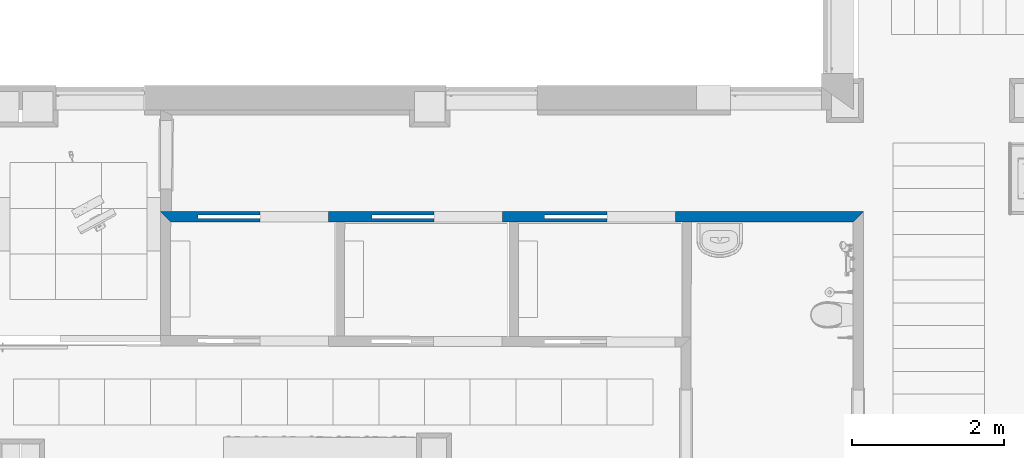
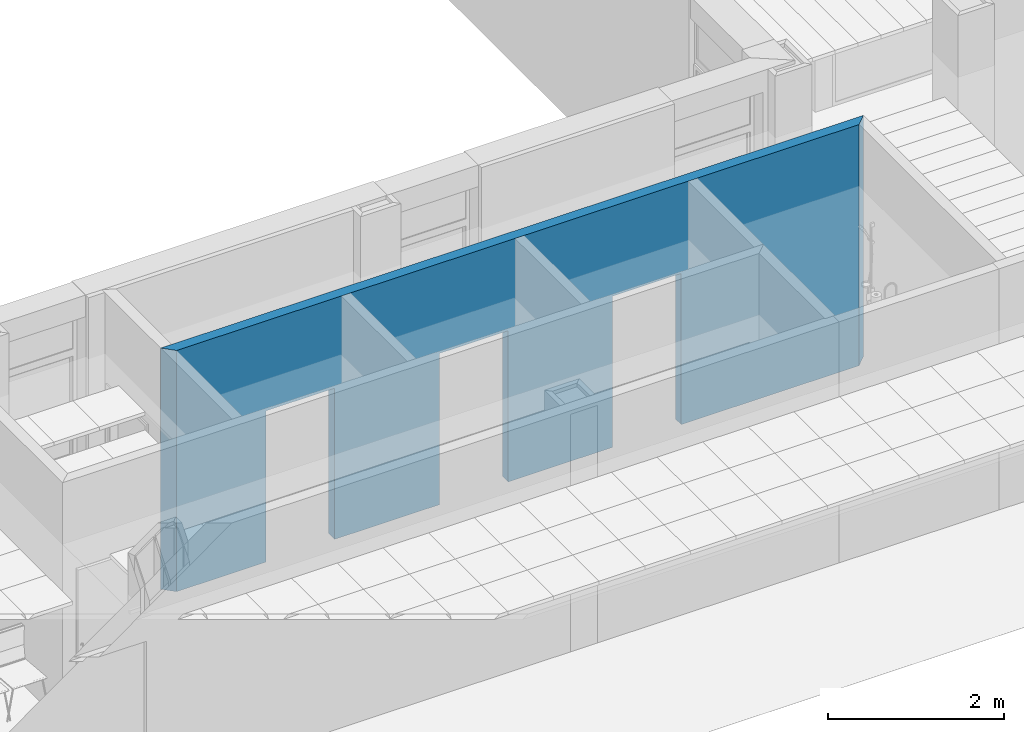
# One storey, part 30 of 68: 1 wall, 3 openings.
"""IFC2X3 building model written with IfcOpenShell, lengths in millimetres."""

from ifc_helpers import new_model, entity, si_unit, converted_unit, derived_unit, money_unit, direction, frame, origin_with_axes, origin_2d_with_axis, place, context, subcontext, project, spatial, polyline, rectangle, outline, extrude, material, layer, layer_set, layer_usage, type_object, element, save


model = new_model("IFC2X3")

# Units and contexts
model_context = context("Model", 3, precision=0.01, world=origin_with_axes(), true_north=direction((0.0, 1.0)))
body_context = subcontext(model_context, "Body", "Model", "MODEL_VIEW")
ifc_project = project(units=[si_unit("LENGTHUNIT", "METRE", prefix="MILLI"), si_unit("AREAUNIT", "SQUARE_METRE"), si_unit("VOLUMEUNIT", "CUBIC_METRE"), converted_unit("PLANEANGLEUNIT", "DEGREE", entity("IfcPlaneAngleMeasure", 0.0174532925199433), si_unit("PLANEANGLEUNIT", "RADIAN"), dimensions=[0, 0, 0, 0, 0, 0, 0]), money_unit("USD"), converted_unit("TIMEUNIT", "Year", entity("IfcTimeMeasure", 31557600.0), si_unit("TIMEUNIT", "SECOND"), dimensions=[0, 0, 1, 0, 0, 0, 0]), si_unit("MASSUNIT", "GRAM", prefix="KILO"), si_unit("THERMODYNAMICTEMPERATUREUNIT", "DEGREE_CELSIUS"), si_unit("LUMINOUSINTENSITYUNIT", "LUMEN"), si_unit("ENERGYUNIT", "JOULE", prefix="MEGA"), derived_unit("THERMALCONDUCTANCEUNIT", [(si_unit("POWERUNIT", "WATT"), 1), (si_unit("LENGTHUNIT", "METRE"), -1), (si_unit("THERMODYNAMICTEMPERATUREUNIT", "KELVIN"), -1)]), derived_unit("SPECIFICHEATCAPACITYUNIT", [(si_unit("ENERGYUNIT", "JOULE"), 1), (si_unit("MASSUNIT", "GRAM", prefix="KILO"), -1), (si_unit("THERMODYNAMICTEMPERATUREUNIT", "KELVIN"), -1)]), derived_unit("MASSDENSITYUNIT", [(si_unit("MASSUNIT", "GRAM", prefix="KILO"), 1), (si_unit("VOLUMEUNIT", "CUBIC_METRE"), -1)])], contexts=[model_context])

# Site, building, storey
site_placement = place(None, origin_with_axes())
site = spatial("IfcSite", under=ifc_project, at=site_placement, Name="Sitio", CompositionType="ELEMENT")
building_placement = place(site_placement, origin_with_axes())
building = spatial("IfcBuilding", under=site, at=building_placement, Name="Construcción", CompositionType="ELEMENT")
storey_placement = place(building_placement, origin_with_axes())
storey = spatial("IfcBuildingStorey", under=building, at=storey_placement, Name="PLANTA 1ª", CompositionType="ELEMENT", Elevation=0.0)

# Wall, openings
ifc_material_1 = material(Name="ARQ_FU093_Panellat_HPL")
ifc_layer_1 = layer(ifc_material_1, 6.0, ventilated="UNKNOWN")
ifc_material_2 = material(Name="ARQ_EN271_Camara_Aire")
ifc_layer_2 = layer(ifc_material_2, 6.0, ventilated="UNKNOWN")
ifc_material_3 = material(Name="Panel de Yeso Laminado")
ifc_layer_3 = layer(ifc_material_3, 13.0, ventilated="UNKNOWN")
ifc_layer_4 = layer(ifc_material_3, 13.0, ventilated="UNKNOWN")
ifc_material_4 = material(Name="ARQ_AI033_Aillament_Llana_De_Roca")
ifc_layer_5 = layer(ifc_material_4, 70.0, ventilated="UNKNOWN")
ifc_material_5 = material(Name="ARQ_CG063_Guix_Laminat_Hydro")
ifc_layer_6 = layer(ifc_material_5, 13.0, ventilated="UNKNOWN")
ifc_layer_7 = layer(ifc_material_5, 13.0, ventilated="UNKNOWN")
ifc_layer_set = layer_set([ifc_layer_1, ifc_layer_2, ifc_layer_3, ifc_layer_4, ifc_layer_5, ifc_layer_6, ifc_layer_7], Name="CR Pladur 70 mixte HPL 1")
ifc_layer_usage = layer_usage(ifc_layer_set, "AXIS2", "POSITIVE", -134.0)
wall_type = type_object("IfcWallType", Name="CR Pladur 70 mixte HPL 1 134", PredefinedType="NOTDEFINED")
wall_placement = place(storey_placement, frame((-1686.993214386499, -13808.56065481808, 0.0), z_axis=(0.0, 0.0, 1.0), x_axis=(-1.0, 0.0, 0.0)))
wall = element("IfcWallStandardCase", 1, at=wall_placement, inside=storey, type_object=wall_type, material=ifc_layer_usage, Name="MS-205", context=body_context, shape_type="SweptSolid", body=[
    extrude(outline(polyline([(-134.0990689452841, -134.0000000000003), (9098.88034774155, -134.0000000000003), (8965.078266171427, 0.0), (0.0, 0.0), (-134.0990689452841, -134.0000000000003)])), origin_with_axes(), (0.0, 0.0, 1.0), 3350.0),
])
opening_1_placement = place(wall_placement, frame((5059.508125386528, 0.0, 0.0), z_axis=(0.0, 0.0, 1.0), x_axis=(1.0, 0.0, 0.0)))
element("IfcOpeningElement", 2, at=opening_1_placement, cuts=wall, Name="P-01", context=body_context, shape_type="SweptSolid", body=[
    extrude(rectangle(XDim=900.0000000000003, YDim=2100.0, at=origin_2d_with_axis()), frame((0.0, 134.0000000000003, 1050.0), z_axis=(0.0, -1.0, 0.0), x_axis=(1.0, 0.0, 0.0)), (0.0, 0.0, 1.0), 402.0),
    extrude(rectangle(XDim=815.0000071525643, YDim=2070.0, at=origin_2d_with_axis()), frame((857.5000035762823, -41.99999999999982, 1035.0), z_axis=(0.0, -1.0, 0.0), x_axis=(1.0, 0.0, 0.0)), (0.0, 0.0, 1.0), 50.0),
])
opening_2_placement = place(wall_placement, frame((2787.347749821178, 0.0, 0.0), z_axis=(0.0, 0.0, 1.0), x_axis=(1.0, 0.0, 0.0)))
element("IfcOpeningElement", 3, at=opening_2_placement, cuts=wall, Name="P-01", context=body_context, shape_type="SweptSolid", body=[
    extrude(rectangle(XDim=900.0000000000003, YDim=2100.0, at=origin_2d_with_axis()), frame((0.0, 134.0000000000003, 1050.0), z_axis=(0.0, -1.0, 0.0), x_axis=(1.0, 0.0, 0.0)), (0.0, 0.0, 1.0), 402.0),
    extrude(rectangle(XDim=815.0000071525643, YDim=2070.0, at=origin_2d_with_axis()), frame((857.5000035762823, -41.99999999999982, 1035.0), z_axis=(0.0, -1.0, 0.0), x_axis=(1.0, 0.0, 0.0)), (0.0, 0.0, 1.0), 50.0),
])
opening_3_placement = place(wall_placement, frame((7339.751726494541, 0.0, 0.0), z_axis=(0.0, 0.0, 1.0), x_axis=(1.0, 0.0, 0.0)))
element("IfcOpeningElement", 4, at=opening_3_placement, cuts=wall, Name="P-01", context=body_context, shape_type="SweptSolid", body=[
    extrude(rectangle(XDim=899.9999999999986, YDim=2100.0, at=origin_2d_with_axis()), frame((0.0, 134.0000000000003, 1050.0), z_axis=(0.0, -1.0, 0.0), x_axis=(1.0, 0.0, 0.0)), (0.0, 0.0, 1.0), 402.0),
    extrude(rectangle(XDim=815.0000071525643, YDim=2070.0, at=origin_2d_with_axis()), frame((857.5000035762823, -42.00000000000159, 1035.0), z_axis=(0.0, -1.0, 0.0), x_axis=(1.0, 0.0, 0.0)), (0.0, 0.0, 1.0), 50.0),
])

save(model, "model.ifc")
